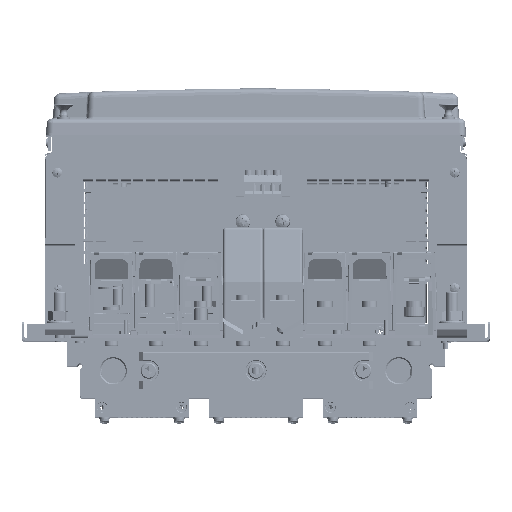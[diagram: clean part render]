
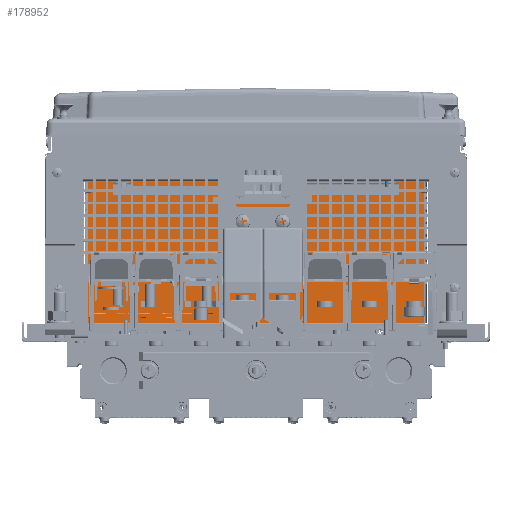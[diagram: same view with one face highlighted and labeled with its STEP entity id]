
A CAD part, top view. The second image highlights one B-rep face of the part: STEP entity #178952.
In plain terms, the highlighted planar face has unit normal (0, 0, 1).
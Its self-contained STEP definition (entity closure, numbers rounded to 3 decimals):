
#2770 = PLANE ( 'NONE',  #108873 ) ;
#4762 = LINE ( 'NONE', #249065, #159035 ) ;
#10511 = ORIENTED_EDGE ( 'NONE', *, *, #159364, .F. ) ;
#20457 = EDGE_LOOP ( 'NONE', ( #10511, #63464, #323422, #227449 ) ) ;
#22061 = DIRECTION ( 'NONE',  ( -1., 0., 0. ) ) ;
#33049 = CARTESIAN_POINT ( 'NONE',  ( 0., 197., -670. ) ) ;
#33804 = DIRECTION ( 'NONE',  ( 0., -1., 0. ) ) ;
#33981 = VERTEX_POINT ( 'NONE', #154721 ) ;
#34435 = VERTEX_POINT ( 'NONE', #64254 ) ;
#62244 = DIRECTION ( 'NONE',  ( -1., 0., 0. ) ) ;
#63464 = ORIENTED_EDGE ( 'NONE', *, *, #149985, .F. ) ;
#64254 = CARTESIAN_POINT ( 'NONE',  ( 135.5, 195., -670. ) ) ;
#77753 = LINE ( 'NONE', #209962, #213811 ) ;
#93004 = CARTESIAN_POINT ( 'NONE',  ( -135.5, 195., -670. ) ) ;
#99827 = FACE_OUTER_BOUND ( 'NONE', #20457, .T. ) ;
#107363 = VECTOR ( 'NONE', #22061, 1000. ) ;
#108873 = AXIS2_PLACEMENT_3D ( 'NONE', #33049, #235748, #62244 ) ;
#117859 = EDGE_CURVE ( 'NONE', #158150, #33981, #77753, .T. ) ;
#147397 = LINE ( 'NONE', #191840, #215321 ) ;
#149985 = EDGE_CURVE ( 'NONE', #158150, #34435, #4762, .T. ) ;
#153615 = VERTEX_POINT ( 'NONE', #188150 ) ;
#154721 = CARTESIAN_POINT ( 'NONE',  ( -135.5, 61.5, -670. ) ) ;
#158150 = VERTEX_POINT ( 'NONE', #93004 ) ;
#159035 = VECTOR ( 'NONE', #275629, 1000. ) ;
#159364 = EDGE_CURVE ( 'NONE', #34435, #153615, #147397, .T. ) ;
#163994 = DIRECTION ( 'NONE',  ( 0., -1., 0. ) ) ;
#166570 = CARTESIAN_POINT ( 'NONE',  ( 136.4, 61.5, -670. ) ) ;
#178952 = ADVANCED_FACE ( 'NONE', ( #99827 ), #2770, .F. ) ;
#188150 = CARTESIAN_POINT ( 'NONE',  ( 135.5, 61.5, -670. ) ) ;
#191840 = CARTESIAN_POINT ( 'NONE',  ( 135.5, 195., -670. ) ) ;
#209962 = CARTESIAN_POINT ( 'NONE',  ( -135.5, 195., -670. ) ) ;
#213811 = VECTOR ( 'NONE', #33804, 1000. ) ;
#215321 = VECTOR ( 'NONE', #163994, 1000. ) ;
#227449 = ORIENTED_EDGE ( 'NONE', *, *, #252335, .F. ) ;
#235748 = DIRECTION ( 'NONE',  ( 0., 0., -1. ) ) ;
#249065 = CARTESIAN_POINT ( 'NONE',  ( 0., 195., -670. ) ) ;
#252335 = EDGE_CURVE ( 'NONE', #153615, #33981, #338289, .T. ) ;
#275629 = DIRECTION ( 'NONE',  ( 1., 0., 0. ) ) ;
#323422 = ORIENTED_EDGE ( 'NONE', *, *, #117859, .T. ) ;
#338289 = LINE ( 'NONE', #166570, #107363 ) ;
